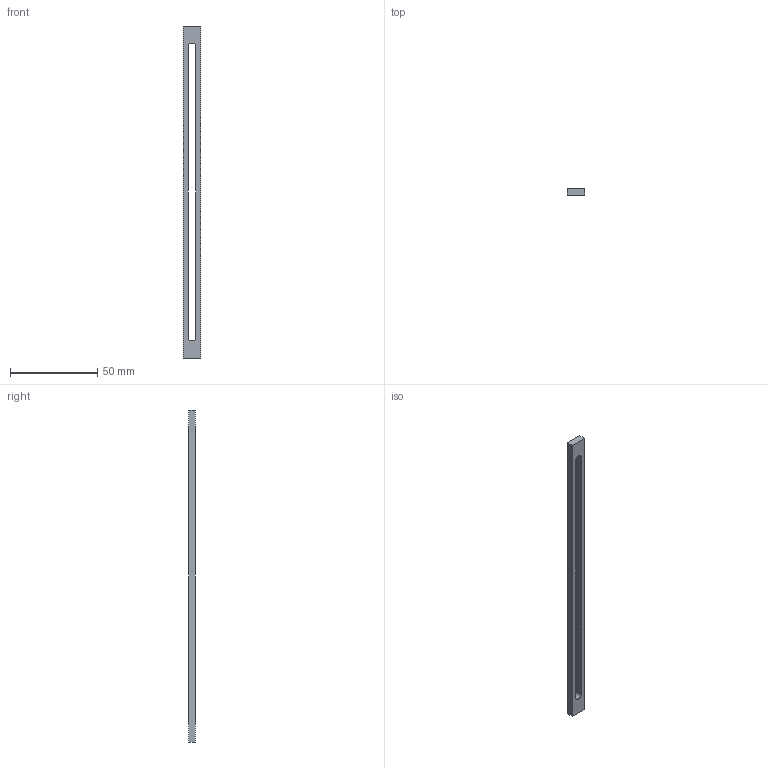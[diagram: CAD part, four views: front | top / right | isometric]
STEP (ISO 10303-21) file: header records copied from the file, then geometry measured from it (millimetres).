
FILE_DESCRIPTION(('Open CASCADE Model'),'2;1');
FILE_NAME('Open CASCADE Shape Model','2026-11-08T06:43:58',('Author'),( 'Open CASCADE'),'Open CASCADE STEP processor 7.8','Open CASCADE 7.8' ,'Unknown');
FILE_SCHEMA(('AUTOMOTIVE_DESIGN { 1 0 10303 214 1 1 1 1 }'));
Length unit declared in the file: millimetre
Products named in the file (1): Open CASCADE STEP translator 7.8 14
Bounding box: 10 x 4 x 190 mm (x, y, z)
Volume: 4548.4 mm3; surface area: 5258.7 mm2
Topology: 1 solids, 1 shells, 10 faces, 24 edges, 16 vertices
Faces by surface type: plane 8, cylinder 2
Entity records: 630 total; most frequent: CARTESIAN_POINT 123, DIRECTION 94, LINE 64, VECTOR 64, ORIENTED_EDGE 48, PCURVE 48, DEFINITIONAL_REPRESENTATION 48, EDGE_CURVE 24
